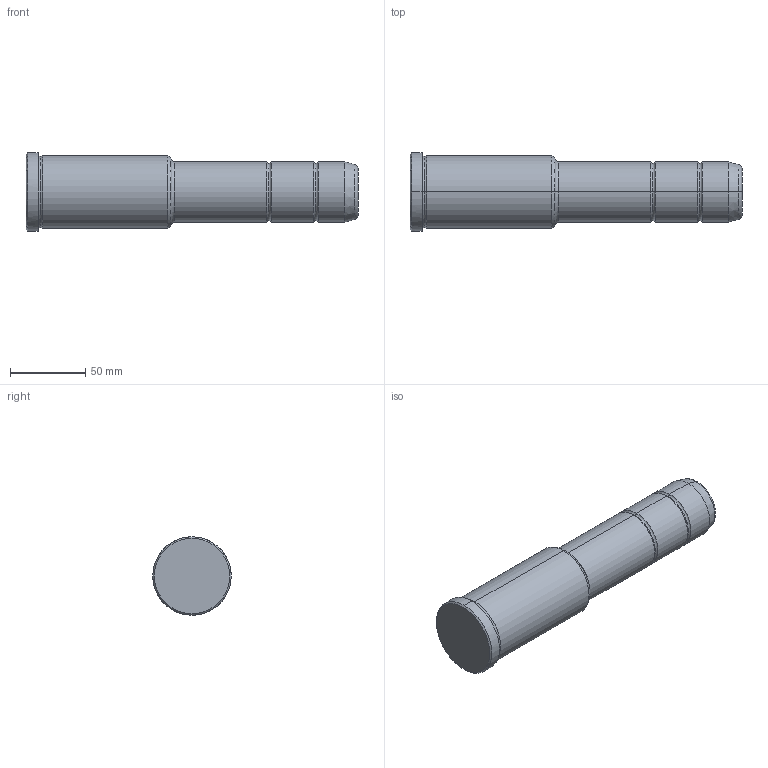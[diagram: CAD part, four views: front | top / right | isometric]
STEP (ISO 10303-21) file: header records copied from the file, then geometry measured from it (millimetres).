
FILE_DESCRIPTION(('CATIA V5 STEP Exchange'),'2;1');
FILE_NAME('C:\Users\Utente\Desktop\IO LAVORO\3D X SITO CF\X SITO\PLASTICA\351\351-40X96X220.stp','2021-10-07T14:06:58+00:00',('none'),('none'),'CATIA Version 5 Release 20 GA (IN-10)','CATIA V5 STEP AP203','none');
FILE_SCHEMA(('CONFIG_CONTROL_DESIGN'));
Length unit declared in the file: millimetre
Products named in the file (1): 351-40X96X220
Bounding box: 220 x 52 x 52 mm (x, y, z)
Volume: 329869.9 mm3; surface area: 33854.6 mm2
Topology: 1 solids, 1 shells, 36 faces, 102 edges, 70 vertices
Faces by surface type: torus 16, cylinder 10, cone 6, plane 4
Entity records: 1292 total; most frequent: CARTESIAN_POINT 321, ORIENTED_EDGE 204, DIRECTION 166, AXIS2_PLACEMENT_3D 115, EDGE_CURVE 102, CIRCLE 78, VERTEX_POINT 70, EDGE_LOOP 38
